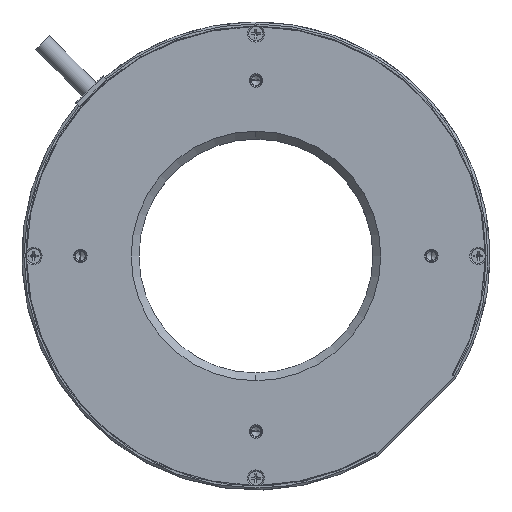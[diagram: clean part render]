
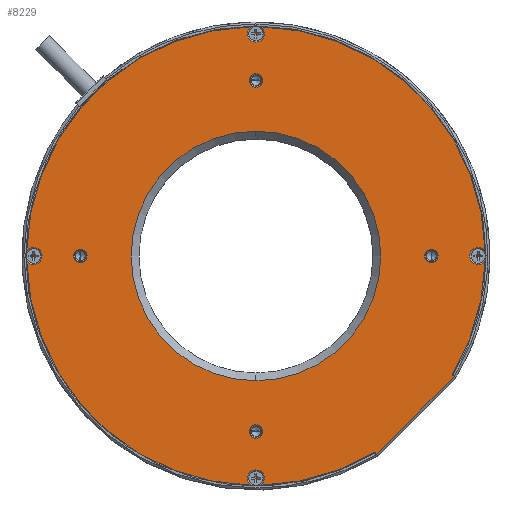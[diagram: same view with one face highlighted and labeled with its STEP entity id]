
A CAD part, top view. The second image highlights one B-rep face of the part: STEP entity #8229.
In plain terms, the highlighted planar face has unit normal (0, 0, 1).
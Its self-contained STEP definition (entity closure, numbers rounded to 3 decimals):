
#1367=CARTESIAN_POINT('',(0.,0.,2.));
#1368=DIRECTION('',(0.,0.,-1.));
#1369=DIRECTION('',(0.,1.,0.));
#1370=AXIS2_PLACEMENT_3D('',#1367,#1368,#1369);
#1372=CARTESIAN_POINT('',(0.,0.,2.));
#1373=DIRECTION('',(0.,0.,-1.));
#1374=DIRECTION('',(0.,-1.,0.));
#1375=AXIS2_PLACEMENT_3D('',#1372,#1373,#1374);
#1377=CARTESIAN_POINT('',(-45.,0.,2.));
#1378=DIRECTION('',(0.,0.,-1.));
#1379=DIRECTION('',(0.,-1.,0.));
#1380=AXIS2_PLACEMENT_3D('',#1377,#1378,#1379);
#1382=CARTESIAN_POINT('',(-45.,0.,2.));
#1383=DIRECTION('',(0.,0.,-1.));
#1384=DIRECTION('',(0.,1.,0.));
#1385=AXIS2_PLACEMENT_3D('',#1382,#1383,#1384);
#1387=CARTESIAN_POINT('',(0.,-45.,2.));
#1388=DIRECTION('',(0.,0.,-1.));
#1389=DIRECTION('',(1.,0.,0.));
#1390=AXIS2_PLACEMENT_3D('',#1387,#1388,#1389);
#1392=CARTESIAN_POINT('',(0.,-45.,2.));
#1393=DIRECTION('',(0.,0.,-1.));
#1394=DIRECTION('',(-1.,0.,0.));
#1395=AXIS2_PLACEMENT_3D('',#1392,#1393,#1394);
#1397=CARTESIAN_POINT('',(45.,0.,2.));
#1398=DIRECTION('',(0.,0.,-1.));
#1399=DIRECTION('',(0.,1.,0.));
#1400=AXIS2_PLACEMENT_3D('',#1397,#1398,#1399);
#1402=CARTESIAN_POINT('',(45.,0.,2.));
#1403=DIRECTION('',(0.,0.,-1.));
#1404=DIRECTION('',(0.,-1.,0.));
#1405=AXIS2_PLACEMENT_3D('',#1402,#1403,#1404);
#1407=CARTESIAN_POINT('',(0.,45.,2.));
#1408=DIRECTION('',(0.,0.,-1.));
#1409=DIRECTION('',(-1.,0.,0.));
#1410=AXIS2_PLACEMENT_3D('',#1407,#1408,#1409);
#1412=CARTESIAN_POINT('',(0.,45.,2.));
#1413=DIRECTION('',(0.,0.,-1.));
#1414=DIRECTION('',(1.,0.,0.));
#1415=AXIS2_PLACEMENT_3D('',#1412,#1413,#1414);
#1417=CARTESIAN_POINT('',(0.,0.,2.));
#1418=DIRECTION('',(0.,0.,1.));
#1419=DIRECTION('',(0.859,-0.513,0.));
#1420=AXIS2_PLACEMENT_3D('',#1417,#1418,#1419);
#1422=CARTESIAN_POINT('',(50.912,-30.406,2.));
#1423=DIRECTION('',(0.,0.,-1.));
#1424=DIRECTION('',(-0.707,-0.707,0.));
#1425=AXIS2_PLACEMENT_3D('',#1422,#1423,#1424);
#1427=DIRECTION('',(-0.707,0.707,0.));
#1428=VECTOR('',#1427,0.344);
#1429=CARTESIAN_POINT('',(50.801,-31.002,2.));
#1430=LINE('',#1429,#1428);
#1431=DIRECTION('',(0.707,0.707,0.));
#1432=VECTOR('',#1431,28.);
#1433=CARTESIAN_POINT('',(31.002,-50.801,2.));
#1434=LINE('',#1433,#1432);
#1435=DIRECTION('',(0.707,-0.707,0.));
#1436=VECTOR('',#1435,0.344);
#1437=CARTESIAN_POINT('',(30.759,-50.558,2.));
#1438=LINE('',#1437,#1436);
#1439=CARTESIAN_POINT('',(30.406,-50.912,2.));
#1440=DIRECTION('',(0.,0.,-1.));
#1441=DIRECTION('',(-0.513,0.859,0.));
#1442=AXIS2_PLACEMENT_3D('',#1439,#1440,#1441);
#1444=CARTESIAN_POINT('',(0.,0.,2.));
#1445=DIRECTION('',(0.,0.,1.));
#1446=DIRECTION('',(0.02,-1.,0.));
#1447=AXIS2_PLACEMENT_3D('',#1444,#1445,#1446);
#1449=CARTESIAN_POINT('',(0.,0.,2.));
#1450=DIRECTION('',(0.,0.,1.));
#1451=DIRECTION('',(-1.,-0.02,0.));
#1452=AXIS2_PLACEMENT_3D('',#1449,#1450,#1451);
#1454=CARTESIAN_POINT('',(0.,0.,2.));
#1455=DIRECTION('',(0.,0.,1.));
#1456=DIRECTION('',(-0.02,1.,0.));
#1457=AXIS2_PLACEMENT_3D('',#1454,#1455,#1456);
#1459=CARTESIAN_POINT('',(0.,0.,2.));
#1460=DIRECTION('',(0.,0.,1.));
#1461=DIRECTION('',(1.,0.02,0.));
#1462=AXIS2_PLACEMENT_3D('',#1459,#1460,#1461);
#1662=CARTESIAN_POINT('',(57.,0.,2.));
#1663=DIRECTION('',(0.,0.,-1.));
#1664=DIRECTION('',(0.832,-0.555,0.));
#1665=AXIS2_PLACEMENT_3D('',#1662,#1663,#1664);
#3641=CARTESIAN_POINT('',(0.,57.,2.));
#3642=DIRECTION('',(0.,0.,-1.));
#3643=DIRECTION('',(0.555,0.832,0.));
#3644=AXIS2_PLACEMENT_3D('',#3641,#3642,#3643);
#3984=CARTESIAN_POINT('',(-57.,0.,2.));
#3985=DIRECTION('',(0.,0.,-1.));
#3986=DIRECTION('',(-0.832,0.555,0.));
#3987=AXIS2_PLACEMENT_3D('',#3984,#3985,#3986);
#4337=CARTESIAN_POINT('',(0.,-57.,2.));
#4338=DIRECTION('',(0.,0.,-1.));
#4339=DIRECTION('',(-0.555,-0.832,0.));
#4340=AXIS2_PLACEMENT_3D('',#4337,#4338,#4339);
#5022=CARTESIAN_POINT('',(50.482,-30.15,2.));
#5023=CARTESIAN_POINT('',(58.788,-1.194,2.));
#5024=VERTEX_POINT('',#5022);
#5025=VERTEX_POINT('',#5023);
#5026=CARTESIAN_POINT('',(50.558,-30.759,2.));
#5027=VERTEX_POINT('',#5026);
#5028=CARTESIAN_POINT('',(50.801,-31.002,2.));
#5029=VERTEX_POINT('',#5028);
#5030=CARTESIAN_POINT('',(31.002,-50.801,2.));
#5031=VERTEX_POINT('',#5030);
#5032=CARTESIAN_POINT('',(30.759,-50.558,2.));
#5033=VERTEX_POINT('',#5032);
#5034=CARTESIAN_POINT('',(30.149,-50.482,2.));
#5035=VERTEX_POINT('',#5034);
#5036=CARTESIAN_POINT('',(1.194,-58.788,2.));
#5037=VERTEX_POINT('',#5036);
#5038=CARTESIAN_POINT('',(-58.788,-1.194,2.));
#5039=CARTESIAN_POINT('',(-1.194,-58.788,2.));
#5040=VERTEX_POINT('',#5038);
#5041=VERTEX_POINT('',#5039);
#5042=CARTESIAN_POINT('',(-1.194,58.788,2.));
#5043=CARTESIAN_POINT('',(-58.788,1.194,2.));
#5044=VERTEX_POINT('',#5042);
#5045=VERTEX_POINT('',#5043);
#5046=CARTESIAN_POINT('',(58.788,1.194,2.));
#5047=CARTESIAN_POINT('',(1.194,58.788,2.));
#5048=VERTEX_POINT('',#5046);
#5049=VERTEX_POINT('',#5047);
#5050=CARTESIAN_POINT('',(1.7,45.,2.));
#5051=CARTESIAN_POINT('',(-1.7,45.,2.));
#5052=VERTEX_POINT('',#5050);
#5053=VERTEX_POINT('',#5051);
#5054=CARTESIAN_POINT('',(45.,-1.7,2.));
#5055=CARTESIAN_POINT('',(45.,1.7,2.));
#5056=VERTEX_POINT('',#5054);
#5057=VERTEX_POINT('',#5055);
#5058=CARTESIAN_POINT('',(-1.7,-45.,2.));
#5059=CARTESIAN_POINT('',(1.7,-45.,2.));
#5060=VERTEX_POINT('',#5058);
#5061=VERTEX_POINT('',#5059);
#5062=CARTESIAN_POINT('',(-45.,1.7,2.));
#5063=CARTESIAN_POINT('',(-45.,-1.7,2.));
#5064=VERTEX_POINT('',#5062);
#5065=VERTEX_POINT('',#5063);
#5066=CARTESIAN_POINT('',(0.,-32.,2.));
#5067=CARTESIAN_POINT('',(0.,32.,2.));
#5068=VERTEX_POINT('',#5066);
#5069=VERTEX_POINT('',#5067);
#8166=CARTESIAN_POINT('',(0.,0.,2.));
#8167=DIRECTION('',(0.,0.,-1.));
#8168=DIRECTION('',(0.,-1.,0.));
#8169=AXIS2_PLACEMENT_3D('',#8166,#8167,#8168);
#8170=PLANE('',#8169);
#8172=ORIENTED_EDGE('',*,*,#8171,.F.);
#8174=ORIENTED_EDGE('',*,*,#8173,.F.);
#8176=ORIENTED_EDGE('',*,*,#8175,.F.);
#8178=ORIENTED_EDGE('',*,*,#8177,.F.);
#8180=ORIENTED_EDGE('',*,*,#8179,.F.);
#8182=ORIENTED_EDGE('',*,*,#8181,.F.);
#8184=ORIENTED_EDGE('',*,*,#8183,.F.);
#8186=ORIENTED_EDGE('',*,*,#8185,.F.);
#8188=ORIENTED_EDGE('',*,*,#8187,.F.);
#8190=ORIENTED_EDGE('',*,*,#8189,.F.);
#8192=ORIENTED_EDGE('',*,*,#8191,.F.);
#8194=ORIENTED_EDGE('',*,*,#8193,.F.);
#8196=ORIENTED_EDGE('',*,*,#8195,.F.);
#8198=ORIENTED_EDGE('',*,*,#8197,.F.);
#8199=EDGE_LOOP('',(#8172,#8174,#8176,#8178,#8180,#8182,#8184,#8186,#8188,#8190,
#8192,#8194,#8196,#8198));
#8200=FACE_OUTER_BOUND('',#8199,.F.);
#8202=ORIENTED_EDGE('',*,*,#8201,.F.);
#8204=ORIENTED_EDGE('',*,*,#8203,.F.);
#8205=EDGE_LOOP('',(#8202,#8204));
#8206=FACE_BOUND('',#8205,.F.);
#8208=ORIENTED_EDGE('',*,*,#8207,.F.);
#8210=ORIENTED_EDGE('',*,*,#8209,.F.);
#8211=EDGE_LOOP('',(#8208,#8210));
#8212=FACE_BOUND('',#8211,.F.);
#8214=ORIENTED_EDGE('',*,*,#8213,.F.);
#8216=ORIENTED_EDGE('',*,*,#8215,.F.);
#8217=EDGE_LOOP('',(#8214,#8216));
#8218=FACE_BOUND('',#8217,.F.);
#8220=ORIENTED_EDGE('',*,*,#8219,.F.);
#8222=ORIENTED_EDGE('',*,*,#8221,.F.);
#8223=EDGE_LOOP('',(#8220,#8222));
#8224=FACE_BOUND('',#8223,.F.);
#8225=ORIENTED_EDGE('',*,*,#8145,.F.);
#8226=ORIENTED_EDGE('',*,*,#8159,.F.);
#8227=EDGE_LOOP('',(#8225,#8226));
#8228=FACE_BOUND('',#8227,.F.);
#8229=ADVANCED_FACE('',(#8200,#8206,#8212,#8218,#8224,#8228),#8170,.F.);
#1371=CIRCLE('',#1370,32.);
#1376=CIRCLE('',#1375,32.);
#1381=CIRCLE('',#1380,1.7);
#1386=CIRCLE('',#1385,1.7);
#1391=CIRCLE('',#1390,1.7);
#1396=CIRCLE('',#1395,1.7);
#1401=CIRCLE('',#1400,1.7);
#1406=CIRCLE('',#1405,1.7);
#1411=CIRCLE('',#1410,1.7);
#1416=CIRCLE('',#1415,1.7);
#1421=CIRCLE('',#1420,58.8);
#1426=CIRCLE('',#1425,0.5);
#1443=CIRCLE('',#1442,0.5);
#1448=CIRCLE('',#1447,58.8);
#1453=CIRCLE('',#1452,58.8);
#1458=CIRCLE('',#1457,58.8);
#1463=CIRCLE('',#1462,58.8);
#1666=CIRCLE('',#1665,2.15);
#3645=CIRCLE('',#3644,2.15);
#3988=CIRCLE('',#3987,2.15);
#4341=CIRCLE('',#4340,2.15);
#8145=EDGE_CURVE('',#5069,#5068,#1371,.T.);
#8159=EDGE_CURVE('',#5068,#5069,#1376,.T.);
#8171=EDGE_CURVE('',#5025,#5048,#1666,.T.);
#8173=EDGE_CURVE('',#5024,#5025,#1421,.T.);
#8175=EDGE_CURVE('',#5027,#5024,#1426,.T.);
#8177=EDGE_CURVE('',#5029,#5027,#1430,.T.);
#8179=EDGE_CURVE('',#5031,#5029,#1434,.T.);
#8181=EDGE_CURVE('',#5033,#5031,#1438,.T.);
#8183=EDGE_CURVE('',#5035,#5033,#1443,.T.);
#8185=EDGE_CURVE('',#5037,#5035,#1448,.T.);
#8187=EDGE_CURVE('',#5041,#5037,#4341,.T.);
#8189=EDGE_CURVE('',#5040,#5041,#1453,.T.);
#8191=EDGE_CURVE('',#5045,#5040,#3988,.T.);
#8193=EDGE_CURVE('',#5044,#5045,#1458,.T.);
#8195=EDGE_CURVE('',#5049,#5044,#3645,.T.);
#8197=EDGE_CURVE('',#5048,#5049,#1463,.T.);
#8201=EDGE_CURVE('',#5065,#5064,#1381,.T.);
#8203=EDGE_CURVE('',#5064,#5065,#1386,.T.);
#8207=EDGE_CURVE('',#5061,#5060,#1391,.T.);
#8209=EDGE_CURVE('',#5060,#5061,#1396,.T.);
#8213=EDGE_CURVE('',#5057,#5056,#1401,.T.);
#8215=EDGE_CURVE('',#5056,#5057,#1406,.T.);
#8219=EDGE_CURVE('',#5053,#5052,#1411,.T.);
#8221=EDGE_CURVE('',#5052,#5053,#1416,.T.);
